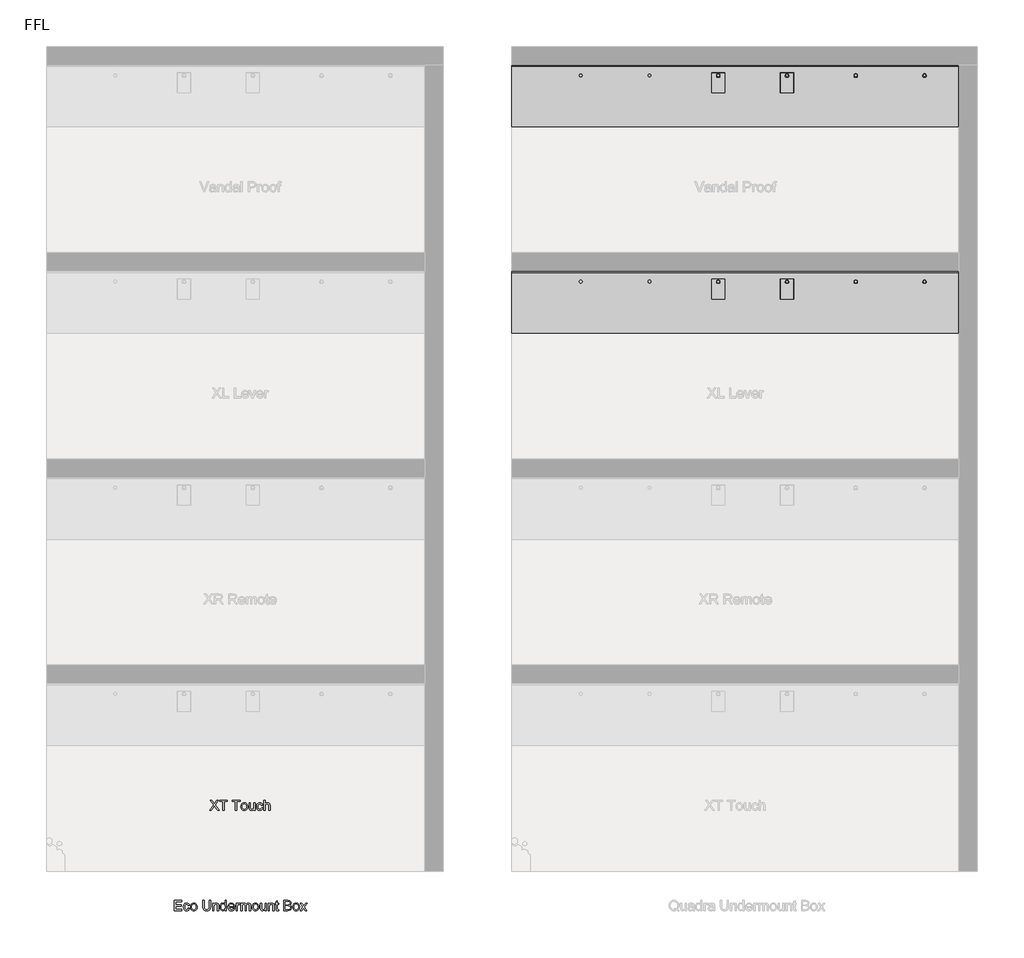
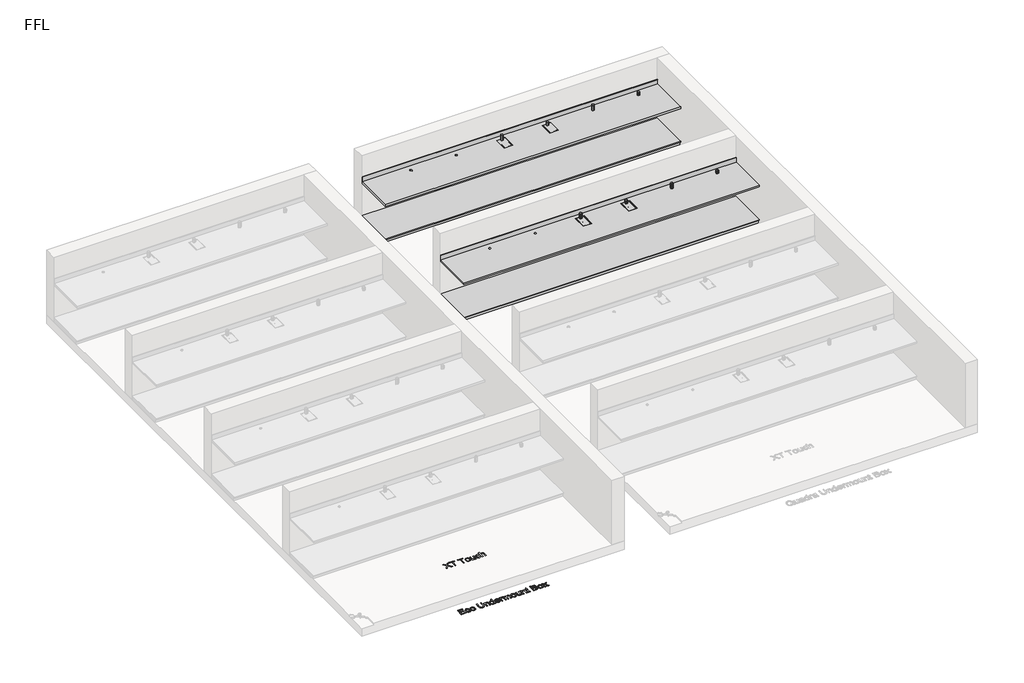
# One storey, part 3 of 5: 8 flow terminals, 4 furniture elements, 2 proxies.
"""IFC4 building model written with IfcOpenShell, lengths in millimetres."""

from ifc_helpers import new_model, si_unit, frame, origin, origin_with_axes, place, context, project, spatial, polyline, circle_curve, outline, extrude, transform, mapped, element, save
from ifc_brep_helpers import plane_surface, revolved_surface, advanced_brep
from components import brushed_582ad824, chrome_7b1b1f62, chrome_988dec97, chrome_73782d16, generic_plinth_900mm_e3c7578c

model = new_model("IFC4")

# Units and contexts
model_context = context("Model", 3, world=origin())
ifc_project = project(units=[si_unit("LENGTHUNIT", "METRE", prefix="MILLI")], contexts=[model_context])

# Site, building, storey
site = spatial("IfcSite", under=ifc_project)
building = spatial("IfcBuilding", under=site)
storey = spatial("IfcBuildingStorey", under=building, Name="FFL", Elevation=0.0)

# Proxies
placement = place(None, origin())
element("IfcBuildingElementProxy", 1, Name="150mm Arial", ObjectType="150mm Arial", at=placement, inside=storey, context=model_context, shape_type="SweptSolid", body=[
    extrude(outline(polyline([(9391.2262456, 1543.2393304), (9391.2262456, 1690.9316381), (9497.3800917, 1690.9316381), (9497.3800917, 1672.4700996), (9409.6877841, 1672.4700996), (9409.6877841, 1628.6239458), (9492.7647071, 1628.6239458), (9492.7647071, 1610.1624073), (9409.6877841, 1610.1624073), (9409.6877841, 1561.7008688), (9499.6877841, 1561.7008688), (9499.6877841, 1543.2393304), (9391.2262456, 1543.2393304)])), origin_with_axes(), (0.0, 0.0, 1.0), 5.0),
    extrude(outline(polyline([(9594.3031687, 1582.4700996), (9612.7647071, 1580.1624073), (9607.6174716, 1563.7426357), (9597.9449956, 1551.3342823), (9584.657736, 1543.5322991), (9568.6661494, 1540.9316381), (9549.0282288, 1544.5599433), (9533.6721591, 1555.4448592), (9523.7608009, 1573.1086212), (9520.4570148, 1597.073465), (9526.1000437, 1627.7405323), (9533.2214379, 1639.2384289), (9543.2995629, 1647.4460611), (9555.3563538, 1652.3679361), (9568.4137456, 1654.0085611), (9584.0132047, 1651.7549554), (9596.4846591, 1644.9941381), (9605.431474, 1634.0866861), (9610.4570148, 1619.3931765), (9591.9954764, 1617.0854842), (9583.4317744, 1630.9136092), (9568.5579764, 1635.5470227), (9556.6273874, 1633.2663736), (9547.157736, 1626.4244265), (9540.978349, 1614.65159), (9538.9185533, 1597.5782727), (9540.9332768, 1580.2750876), (9546.9774475, 1568.4616861), (9556.2758249, 1561.6603039), (9568.0531687, 1559.3931765), (9577.6129643, 1560.8084409), (9585.4510052, 1565.0542342), (9591.1526278, 1572.2387294), (9594.3031687, 1582.4700996)])), origin_with_axes(), (0.0, 0.0, 1.0), 5.0),
    extrude(outline(polyline([(9624.3031687, 1597.4700996), (9628.2965581, 1623.6209409), (9640.2767264, 1642.0013496), (9655.0784091, 1651.0067583), (9672.8007648, 1654.0085611), (9692.1952961, 1650.3532126), (9707.6865821, 1639.3871669), (9717.8413297, 1621.9758087), (9721.2262456, 1598.9845227), (9719.7298514, 1580.3336813), (9715.2406687, 1566.135965), (9707.8894066, 1555.503453), (9697.8067744, 1547.5482246), (9685.8311134, 1542.5857847), (9672.8007648, 1540.9316381), (9653.1718586, 1544.573465), (9637.6986014, 1555.4989458), (9627.6520268, 1573.2753881), (9624.3031687, 1597.4700996)]), holes=[polyline([(9642.7647071, 1597.5061573), (9644.9011254, 1580.7979241), (9651.3103802, 1568.8943784), (9660.9558129, 1561.768477), (9672.8007648, 1559.3931765), (9684.5916302, 1561.7819986), (9694.2190341, 1568.948465), (9700.6282889, 1581.0097631), (9702.7647071, 1598.0830804), (9700.6147672, 1614.3045347), (9694.1649475, 1626.0458208), (9684.524022, 1633.1717222), (9672.8007648, 1635.5470227), (9660.9558129, 1633.1807366), (9651.3103802, 1626.0818784), (9644.9011254, 1614.205376), (9642.7647071, 1597.5061573)])]), origin_with_axes(), (0.0, 0.0, 1.0), 5.0),
    extrude(outline(polyline([(9898.9185533, 1690.9316381), (9917.3800917, 1690.9316381), (9917.3800917, 1605.7273111), (9912.3680725, 1570.4088015), (9905.3458369, 1558.5548352), (9894.3031687, 1549.1347631), (9879.2130244, 1542.9824193), (9860.048361, 1540.9316381), (9841.3028682, 1542.7164938), (9826.3163898, 1548.0710611), (9815.0844187, 1556.8105443), (9807.6024475, 1568.7501477), (9803.3972191, 1584.7642703), (9801.9954764, 1605.7273111), (9801.9954764, 1690.9316381), (9820.4570148, 1690.9316381), (9820.4570148, 1606.3763496), (9824.0988417, 1578.2333208), (9829.04776, 1570.2330203), (9836.610861, 1564.2970227), (9858.3175917, 1559.3931765), (9877.094635, 1561.8180563), (9889.579611, 1569.0926958), (9896.5838177, 1583.2633688), (9898.9185533, 1606.3763496), (9898.9185533, 1690.9316381)])), origin_with_axes(), (0.0, 0.0, 1.0), 5.0),
    extrude(outline(polyline([(9947.3800917, 1543.2393304), (9947.3800917, 1651.7008688), (9965.8416302, 1651.7008688), (9965.8416302, 1636.5566381), (9979.9582167, 1649.6455804), (9999.2310533, 1654.0085611), (10016.6649475, 1650.4929361), (10028.563986, 1641.2621669), (10034.0988417, 1627.6864458), (10035.0723994, 1609.8378881), (10035.0723994, 1543.2393304), (10016.610861, 1543.2393304), (10016.610861, 1607.3499073), (10014.4834571, 1623.6840419), (10006.9654283, 1632.3198592), (9994.2911494, 1635.5470227), (9983.478349, 1633.7351236), (9974.2611014, 1628.2994265), (9967.946498, 1617.7976236), (9965.8416302, 1600.7874073), (9965.8416302, 1543.2393304), (9947.3800917, 1543.2393304)])), origin_with_axes(), (0.0, 0.0, 1.0), 5.0),
    extrude(outline(polyline([(10127.3800917, 1543.2393304), (10127.3800917, 1560.6551958), (10115.1655485, 1545.8625275), (10098.2815341, 1540.9316381), (10086.3464379, 1542.7164938), (10075.4209571, 1548.0710611), (10066.1721591, 1556.6212414), (10059.267111, 1567.9929361), (10054.9672312, 1581.7264097), (10053.5339379, 1597.3619265), (10058.8163898, 1626.7489458), (10065.4149475, 1638.4045948), (10074.6457167, 1646.9773111), (10085.8100797, 1652.2507486), (10098.2094187, 1654.0085611), (10115.2286494, 1648.9785131), (10127.3800917, 1635.9075996), (10127.3800917, 1690.9316381), (10145.8416302, 1690.9316381), (10145.8416302, 1543.2393304), (10127.3800917, 1543.2393304)]), holes=[polyline([(10071.9954764, 1597.4340419), (10074.0778081, 1580.7348232), (10080.3248033, 1568.8583208), (10089.4023273, 1561.7594626), (10099.9762456, 1559.3931765), (10110.5456566, 1561.6512895), (10119.3933129, 1568.4256284), (10125.383397, 1579.8423953), (10127.3800917, 1596.0277919), (10125.3473393, 1613.7231044), (10119.2490821, 1625.9917342), (10110.1760653, 1633.1582006), (10099.2190341, 1635.5470227), (10088.5369427, 1633.252852), (10079.7839379, 1626.37034), (10073.9425917, 1614.5479241), (10071.9954764, 1597.4340419)])]), origin_with_axes(), (0.0, 0.0, 1.0), 5.0),
    extrude(outline(polyline([(10249.4714379, 1575.5470227), (10267.5723994, 1573.2393304), (10261.0504643, 1559.6005083), (10250.6433129, 1549.4051958), (10236.5853201, 1543.0500275), (10219.110861, 1540.9316381), (10197.4492023, 1544.5869866), (10180.7815341, 1555.5530323), (10170.1535292, 1573.1176357), (10166.610861, 1596.5686573), (10170.1895869, 1620.8084409), (10180.9257648, 1638.9364458), (10197.3680725, 1650.2405323), (10218.0651879, 1654.0085611), (10238.117772, 1650.2495467), (10254.1409091, 1638.9725034), (10264.6472191, 1620.8805563), (10268.1493225, 1596.6768304), (10268.0411494, 1591.7008688), (10185.0723994, 1591.7008688), (10188.2680124, 1577.8817583), (10195.6913898, 1567.7225034), (10206.4050316, 1561.4755083), (10219.4714379, 1559.3931765), (10237.5723994, 1563.2513496), (10249.4714379, 1575.5470227)]), holes=[polyline([(10185.0723994, 1610.1624073), (10249.6877841, 1610.1624073), (10247.1907889, 1619.9160131), (10242.2959571, 1626.8931765), (10231.532736, 1633.3835611), (10217.9930725, 1635.5470227), (10205.5486615, 1633.8207607), (10195.2586975, 1628.6419746), (10188.1057528, 1620.5695587), (10185.0723994, 1610.1624073)])]), origin_with_axes(), (0.0, 0.0, 1.0), 5.0),
    extrude(outline(polyline([(10286.610861, 1543.2393304), (10286.610861, 1651.7008688), (10302.7647071, 1651.7008688), (10302.7647071, 1635.6551958), (10314.2310533, 1650.4388496), (10325.7695148, 1654.0085611), (10344.3031687, 1648.3114458), (10338.1373033, 1631.760965), (10325.1565341, 1635.5470227), (10314.7178321, 1631.9051958), (10308.0651879, 1621.8090419), (10305.0723994, 1600.2465419), (10305.0723994, 1543.2393304), (10286.610861, 1543.2393304)])), origin_with_axes(), (0.0, 0.0, 1.0), 5.0),
    extrude(outline(polyline([(10355.8416302, 1543.2393304), (10355.8416302, 1651.7008688), (10374.3031687, 1651.7008688), (10374.3031687, 1633.8523111), (10386.9954764, 1648.4737054), (10405.0603802, 1654.0085611), (10415.3278081, 1652.5978039), (10423.5579764, 1648.3655323), (10433.7262456, 1632.5542342), (10448.1312937, 1648.6449794), (10466.3223994, 1654.0085611), (10480.2001038, 1651.7774914), (10490.4630244, 1645.0842823), (10496.8046711, 1633.7486453), (10498.9185533, 1617.5902919), (10498.9185533, 1543.2393304), (10480.4570148, 1543.2393304), (10480.4570148, 1609.6575996), (10478.7442744, 1625.0722631), (10472.5423514, 1632.6624073), (10461.9954764, 1635.5470227), (10451.993974, 1633.6990659), (10443.8404283, 1628.1551958), (10438.4182528, 1618.5368063), (10436.610861, 1604.4652919), (10436.610861, 1543.2393304), (10418.1493225, 1543.2393304), (10418.1493225, 1611.7128881), (10413.876486, 1629.5975034), (10408.2379643, 1634.0596429), (10399.8680725, 1635.5470227), (10386.2022071, 1631.5806765), (10377.1156687, 1619.9700996), (10374.3031687, 1597.9388496), (10374.3031687, 1543.2393304), (10355.8416302, 1543.2393304)])), origin_with_axes(), (0.0, 0.0, 1.0), 5.0),
    extrude(outline(polyline([(10521.9954764, 1597.4700996), (10525.9888658, 1623.6209409), (10537.9690341, 1642.0013496), (10552.7707167, 1651.0067583), (10570.4930725, 1654.0085611), (10589.8876038, 1650.3532126), (10605.3788898, 1639.3871669), (10615.5336374, 1621.9758087), (10618.9185533, 1598.9845227), (10617.4221591, 1580.3336813), (10612.9329764, 1566.135965), (10605.5817143, 1555.503453), (10595.4990821, 1547.5482246), (10583.5234211, 1542.5857847), (10570.4930725, 1540.9316381), (10550.8641663, 1544.573465), (10535.3909091, 1555.4989458), (10525.3443345, 1573.2753881), (10521.9954764, 1597.4700996)]), holes=[polyline([(10540.4570148, 1597.5061573), (10542.5934331, 1580.7979241), (10549.0026879, 1568.8943784), (10558.6481206, 1561.768477), (10570.4930725, 1559.3931765), (10582.2839379, 1561.7819986), (10591.9113417, 1568.948465), (10598.3205966, 1581.0097631), (10600.4570148, 1598.0830804), (10598.3070749, 1614.3045347), (10591.8572552, 1626.0458208), (10582.2163297, 1633.1717222), (10570.4930725, 1635.5470227), (10558.6481206, 1633.1807366), (10549.0026879, 1626.0818784), (10542.5934331, 1614.205376), (10540.4570148, 1597.5061573)])]), origin_with_axes(), (0.0, 0.0, 1.0), 5.0),
    extrude(outline(polyline([(10708.9185533, 1543.2393304), (10708.9185533, 1561.8811573), (10694.4594187, 1546.1690179), (10675.6012456, 1540.9316381), (10658.2394667, 1544.6095227), (10646.2683129, 1553.8402919), (10640.7695148, 1567.4340419), (10639.6877841, 1584.5975034), (10639.6877841, 1651.7008688), (10658.1493225, 1651.7008688), (10658.1493225, 1593.2874073), (10659.267111, 1574.4652919), (10666.5687937, 1563.4136092), (10680.3248033, 1559.3931765), (10695.7394667, 1563.5037534), (10705.9257648, 1574.6996669), (10708.9185533, 1595.2705804), (10708.9185533, 1651.7008688), (10727.3800917, 1651.7008688), (10727.3800917, 1543.2393304), (10708.9185533, 1543.2393304)])), origin_with_axes(), (0.0, 0.0, 1.0), 5.0),
    extrude(outline(polyline([(10752.7647071, 1543.2393304), (10752.7647071, 1651.7008688), (10771.2262456, 1651.7008688), (10771.2262456, 1636.5566381), (10785.3428321, 1649.6455804), (10804.6156687, 1654.0085611), (10822.0495629, 1650.4929361), (10833.9486014, 1641.2621669), (10839.4834571, 1627.6864458), (10840.4570148, 1609.8378881), (10840.4570148, 1543.2393304), (10821.9954764, 1543.2393304), (10821.9954764, 1607.3499073), (10819.8680725, 1623.6840419), (10812.3500437, 1632.3198592), (10799.6757648, 1635.5470227), (10788.8629643, 1633.7351236), (10779.6457167, 1628.2994265), (10773.3311134, 1617.7976236), (10771.2262456, 1600.7874073), (10771.2262456, 1543.2393304), (10752.7647071, 1543.2393304)])), origin_with_axes(), (0.0, 0.0, 1.0), 5.0),
    extrude(outline(polyline([(10905.0723994, 1558.635965), (10907.3800917, 1542.698465), (10893.5699956, 1540.9316381), (10878.1012456, 1543.9965419), (10870.3848994, 1552.0374073), (10868.1493225, 1572.9869265), (10868.1493225, 1633.2393304), (10854.3031687, 1633.2393304), (10854.3031687, 1651.7008688), (10868.1493225, 1651.7008688), (10868.1493225, 1678.0590419), (10886.610861, 1688.9124073), (10886.610861, 1651.7008688), (10905.0723994, 1651.7008688), (10905.0723994, 1633.2393304), (10886.610861, 1633.2393304), (10886.610861, 1573.5277919), (10887.5844187, 1564.0085611), (10890.7394667, 1560.6371669), (10897.0315341, 1559.3931765), (10905.0723994, 1558.635965)])), origin_with_axes(), (0.0, 0.0, 1.0), 5.0),
    extrude(outline(polyline([(10983.5339379, 1543.2393304), (10983.5339379, 1690.9316381), (11039.892111, 1690.9316381), (11067.4942744, 1686.5866861), (11076.7701158, 1681.0743664), (11083.7923514, 1673.2273111), (11089.6877841, 1654.3330804), (11084.7298514, 1637.0794746), (11069.7478802, 1624.0085611), (11080.2091182, 1618.5458208), (11087.938986, 1610.2345227), (11092.712123, 1599.6245467), (11094.3031687, 1587.2657727), (11089.9582167, 1567.4160131), (11079.1949956, 1553.2813977), (11063.1312937, 1545.7813977), (11039.4594187, 1543.2393304), (10983.5339379, 1543.2393304)]), holes=[polyline([(11001.9954764, 1630.9316381), (11035.7094187, 1630.9316381), (11055.3969187, 1632.5181765), (11067.2418706, 1639.3511092), (11071.2262456, 1651.3763496), (11067.5123033, 1663.4196188), (11056.8752841, 1670.5410131), (11033.1493225, 1672.4700996), (11001.9954764, 1672.4700996), (11001.9954764, 1630.9316381)]), polyline([(11001.9954764, 1561.7008688), (11039.8560533, 1561.7008688), (11053.5579764, 1562.4220227), (11065.1505244, 1566.4424554), (11072.8308129, 1574.6455804), (11075.8416302, 1587.0854842), (11072.3079764, 1601.4364458), (11060.8596591, 1610.0001477), (11038.0531687, 1612.4700996), (11001.9954764, 1612.4700996), (11001.9954764, 1561.7008688)])]), origin_with_axes(), (0.0, 0.0, 1.0), 5.0),
    extrude(outline(polyline([(11112.7647071, 1597.4700996), (11116.7580966, 1623.6209409), (11128.7382648, 1642.0013496), (11143.5399475, 1651.0067583), (11161.2623033, 1654.0085611), (11180.6568345, 1650.3532126), (11196.1481206, 1639.3871669), (11206.3028682, 1621.9758087), (11209.6877841, 1598.9845227), (11208.1913898, 1580.3336813), (11203.7022071, 1566.135965), (11196.3509451, 1555.503453), (11186.2683129, 1547.5482246), (11174.2926518, 1542.5857847), (11161.2623033, 1540.9316381), (11141.633397, 1544.573465), (11126.1601398, 1555.4989458), (11116.1135653, 1573.2753881), (11112.7647071, 1597.4700996)]), holes=[polyline([(11131.2262456, 1597.5061573), (11133.3626639, 1580.7979241), (11139.7719187, 1568.8943784), (11149.4173514, 1561.768477), (11161.2623033, 1559.3931765), (11173.0531687, 1561.7819986), (11182.6805725, 1568.948465), (11189.0898273, 1581.0097631), (11191.2262456, 1598.0830804), (11189.0763057, 1614.3045347), (11182.626486, 1626.0458208), (11172.9855605, 1633.1717222), (11161.2623033, 1635.5470227), (11149.4173514, 1633.1807366), (11139.7719187, 1626.0818784), (11133.3626639, 1614.205376), (11131.2262456, 1597.5061573)])]), origin_with_axes(), (0.0, 0.0, 1.0), 5.0),
    extrude(outline(polyline([(11218.9185533, 1543.2393304), (11258.3656687, 1597.7585611), (11221.2262456, 1651.7008688), (11243.4377841, 1651.7008688), (11261.3584571, 1625.7393304), (11269.7238417, 1613.479715), (11276.9714379, 1623.5037534), (11297.3800917, 1651.7008688), (11319.5916302, 1651.7008688), (11280.5772071, 1597.7585611), (11318.1493225, 1543.2393304), (11295.9377841, 1543.2393304), (11273.329611, 1576.0157727), (11269.1829764, 1582.0013496), (11241.1300917, 1543.2393304), (11218.9185533, 1543.2393304)])), origin_with_axes(), (0.0, 0.0, 1.0), 5.0),
])
element("IfcBuildingElementProxy", 2, Name="150mm Arial", ObjectType="150mm Arial", at=placement, inside=storey, context=model_context, shape_type="SweptSolid", body=[
    extrude(outline(polyline([(9903.5339379, 3003.2393304), (9960.4690341, 3083.7200996), (9912.7647071, 3150.9316381), (9934.9041302, 3150.9316381), (9961.767111, 3113.1071188), (9970.8175917, 3098.3595227), (9981.4185533, 3113.3595227), (10007.9930725, 3150.9316381), (10030.4570148, 3150.9316381), (9982.7526879, 3083.5037534), (10039.6877841, 3003.2393304), (10017.548361, 3003.2393304), (9979.6156687, 3056.7489458), (9971.7190341, 3067.854715), (9963.0291302, 3055.667215), (9925.9978802, 3003.2393304), (9903.5339379, 3003.2393304)])), origin_with_axes(), (0.0, 0.0, 1.0), 5.0),
    extrude(outline(polyline([(10095.0723994, 3003.2393304), (10095.0723994, 3132.4700996), (10046.610861, 3132.4700996), (10046.610861, 3150.9316381), (10161.9954764, 3150.9316381), (10161.9954764, 3132.4700996), (10113.5339379, 3132.4700996), (10113.5339379, 3003.2393304), (10095.0723994, 3003.2393304)])), origin_with_axes(), (0.0, 0.0, 1.0), 5.0),
    extrude(outline(polyline([(10277.3800917, 3003.2393304), (10277.3800917, 3132.4700996), (10228.9185533, 3132.4700996), (10228.9185533, 3150.9316381), (10344.3031687, 3150.9316381), (10344.3031687, 3132.4700996), (10295.8416302, 3132.4700996), (10295.8416302, 3003.2393304), (10277.3800917, 3003.2393304)])), origin_with_axes(), (0.0, 0.0, 1.0), 5.0),
    extrude(outline(polyline([(10358.1493225, 3057.4700996), (10362.1427119, 3083.6209409), (10374.1228802, 3102.0013496), (10388.9245629, 3111.0067583), (10406.6469187, 3114.0085611), (10426.0414499, 3110.3532126), (10441.532736, 3099.3871669), (10451.6874836, 3081.9758087), (10455.0723994, 3058.9845227), (10453.5760052, 3040.3336813), (10449.0868225, 3026.135965), (10441.7355605, 3015.503453), (10431.6529283, 3007.5482246), (10419.6772672, 3002.5857847), (10406.6469187, 3000.9316381), (10387.0180124, 3004.573465), (10371.5447552, 3015.4989458), (10361.4981807, 3033.2753881), (10358.1493225, 3057.4700996)]), holes=[polyline([(10376.610861, 3057.5061573), (10378.7472792, 3040.7979241), (10385.1565341, 3028.8943784), (10394.8019667, 3021.768477), (10406.6469187, 3019.3931765), (10418.4377841, 3021.7819986), (10428.0651879, 3028.948465), (10434.4744427, 3041.0097631), (10436.610861, 3058.0830804), (10434.4609211, 3074.3045347), (10428.0111014, 3086.0458208), (10418.3701759, 3093.1717222), (10406.6469187, 3095.5470227), (10394.8019667, 3093.1807366), (10385.1565341, 3086.0818784), (10378.7472792, 3074.205376), (10376.610861, 3057.5061573)])]), origin_with_axes(), (0.0, 0.0, 1.0), 5.0),
    extrude(outline(polyline([(10545.0723994, 3003.2393304), (10545.0723994, 3021.8811573), (10530.6132648, 3006.1690179), (10511.7550917, 3000.9316381), (10494.3933129, 3004.6095227), (10482.4221591, 3013.8402919), (10476.923361, 3027.4340419), (10475.8416302, 3044.5975034), (10475.8416302, 3111.7008688), (10494.3031687, 3111.7008688), (10494.3031687, 3053.2874073), (10495.4209571, 3034.4652919), (10502.7226398, 3023.4136092), (10516.4786494, 3019.3931765), (10531.8933129, 3023.5037534), (10542.079611, 3034.6996669), (10545.0723994, 3055.2705804), (10545.0723994, 3111.7008688), (10563.5339379, 3111.7008688), (10563.5339379, 3003.2393304), (10545.0723994, 3003.2393304)])), origin_with_axes(), (0.0, 0.0, 1.0), 5.0),
    extrude(outline(polyline([(10658.1493225, 3042.4700996), (10676.610861, 3040.1624073), (10671.4636254, 3023.7426357), (10661.7911494, 3011.3342823), (10648.5038898, 3003.5322991), (10632.5123033, 3000.9316381), (10612.8743826, 3004.5599433), (10597.5183129, 3015.4448592), (10587.6069547, 3033.1086212), (10584.3031687, 3057.073465), (10589.9461975, 3087.7405323), (10597.0675917, 3099.2384289), (10607.1457167, 3107.4460611), (10619.2025076, 3112.3679361), (10632.2598994, 3114.0085611), (10647.8593586, 3111.7549554), (10660.3308129, 3104.9941381), (10669.2776278, 3094.0866861), (10674.3031687, 3079.3931765), (10655.8416302, 3077.0854842), (10647.2779283, 3090.9136092), (10632.4041302, 3095.5470227), (10620.4735413, 3093.2663736), (10611.0038898, 3086.4244265), (10604.8245028, 3074.65159), (10602.7647071, 3057.5782727), (10604.7794307, 3040.2750876), (10610.8236014, 3028.4616861), (10620.1219788, 3021.6603039), (10631.8993225, 3019.3931765), (10641.4591182, 3020.8084409), (10649.2971591, 3025.0542342), (10654.9987816, 3032.2387294), (10658.1493225, 3042.4700996)])), origin_with_axes(), (0.0, 0.0, 1.0), 5.0),
    extrude(outline(polyline([(10692.7647071, 3003.2393304), (10692.7647071, 3150.9316381), (10711.2262456, 3150.9316381), (10711.2262456, 3096.6287534), (10725.6222792, 3109.6636092), (10743.3536494, 3114.0085611), (10764.0868225, 3109.2669746), (10776.6709571, 3096.1600034), (10780.4570148, 3071.8931765), (10780.4570148, 3003.2393304), (10761.9954764, 3003.2393304), (10761.9954764, 3069.9821188), (10760.5261254, 3081.5386092), (10756.1180725, 3089.4532727), (10749.0147071, 3094.0235852), (10739.4594187, 3095.5470227), (10724.3332167, 3091.4364458), (10714.2370629, 3080.2946188), (10711.2262456, 3060.8595227), (10711.2262456, 3003.2393304), (10692.7647071, 3003.2393304)])), origin_with_axes(), (0.0, 0.0, 1.0), 5.0),
])

# Flow terminals
brushed_shape = brushed_582ad824(model_context)
element("IfcFlowTerminal", 3, ObjectType="z_PlumFixt_Billi_70mm Riser  : Brushed", at=placement, inside=storey, context=model_context, shape_type="MappedRepresentation", body=[
    mapped(brushed_shape, transform((20299.2647071, 10711.9893304, 900.0), x_axis=(1.0, 0.0, 0.0), y_axis=(0.0, 1.0, 0.0), z_axis=(0.0, 0.0, 1.0))),
])
element("IfcFlowTerminal", 4, ObjectType="z_PlumFixt_Billi_70mm Riser  : Chrome", at=placement, inside=storey, context=model_context, shape_type="MappedRepresentation", body=[
    mapped(brushed_shape, transform((20299.2647071, 13711.9893304, 900.0), x_axis=(1.0, 0.0, 0.0), y_axis=(0.0, 1.0, 0.0), z_axis=(0.0, 0.0, 1.0))),
])
chrome_shape = chrome_7b1b1f62(model_context)
element("IfcFlowTerminal", 5, ObjectType="z_PlumFixt_Billi_120mm Riser : Chrome", at=placement, inside=storey, context=model_context, shape_type="MappedRepresentation", body=[
    mapped(chrome_shape, transform((19299.2647071, 13711.9893304, 900.0), x_axis=(1.0, 0.0, 0.0), y_axis=(0.0, 1.0, 0.0), z_axis=(0.0, 0.0, 1.0))),
])
element("IfcFlowTerminal", 6, ObjectType="z_PlumFixt_Billi_120mm Riser : Chrome", at=placement, inside=storey, context=model_context, shape_type="MappedRepresentation", body=[
    mapped(chrome_shape, transform((19299.2647071, 10711.9893304, 900.0), x_axis=(1.0, 0.0, 0.0), y_axis=(0.0, 1.0, 0.0), z_axis=(0.0, 0.0, 1.0))),
])
chrome_2_shape = chrome_988dec97(model_context)
element("IfcFlowTerminal", 7, ObjectType="z_PlumFixt_Billi_Font and 70mm Riser : Chrome", at=placement, inside=storey, context=model_context, shape_type="MappedRepresentation", body=[
    mapped(chrome_2_shape, transform((18299.2647071, 13603.3988696, 900.0), x_axis=(1.0, 0.0, 0.0), y_axis=(0.0, 1.0, 0.0), z_axis=(0.0, 0.0, 1.0))),
])
chrome_3_shape = chrome_73782d16(model_context)
element("IfcFlowTerminal", 8, ObjectType="z_PlumFixt_Billi_Font and 120mm Riser : Chrome", at=placement, inside=storey, context=model_context, shape_type="MappedRepresentation", body=[
    mapped(chrome_3_shape, transform((17299.2647071, 13603.3988696, 900.0), x_axis=(1.0, 0.0, 0.0), y_axis=(0.0, 1.0, 0.0), z_axis=(0.0, 0.0, 1.0))),
])
element("IfcFlowTerminal", 9, ObjectType="z_PlumFixt_Billi_Font and 70mm Riser : Matte Black", at=placement, inside=storey, context=model_context, shape_type="MappedRepresentation", body=[
    mapped(chrome_2_shape, transform((18299.2647071, 10603.3988696, 900.0), x_axis=(1.0, 0.0, 0.0), y_axis=(0.0, 1.0, 0.0), z_axis=(0.0, 0.0, 1.0))),
])
element("IfcFlowTerminal", 10, ObjectType="z_PlumFixt_Billi_Font and 120mm Riser : Matte White", at=placement, inside=storey, context=model_context, shape_type="MappedRepresentation", body=[
    mapped(chrome_3_shape, transform((17299.2647071, 10603.3988696, 900.0), x_axis=(1.0, 0.0, 0.0), y_axis=(0.0, 1.0, 0.0), z_axis=(0.0, 0.0, 1.0))),
])

# Furniture
element("IfcFurniture", 11, ObjectType="Counter Top : 900mm Depth", at=placement, inside=storey, context=model_context, shape_type="AdvancedBrep", body=[
    advanced_brep(
    [(14300.2647071, 9948.2393304, 900.0), (21030.2647071, 9948.2393304, 900.0), (21030.2647071, 10829.1893304, 900.0), (14300.2647071, 10829.1893304, 900.0), (20300.2647071, 10718.2393304, 900.0), (20300.2647071, 10678.2393304, 900.0), (19300.2647071, 10718.2393304, 900.0), (19300.2647071, 10678.2393304, 900.0), (18395.7647071, 10735.1488696, 900.0), (18395.7647071, 10444.1488696, 900.0), (18204.7647071, 10444.1488696, 900.0), (18204.7647071, 10735.1488696, 900.0), (17395.7647071, 10735.1488696, 900.0), (17395.7647071, 10444.1488696, 900.0), (17204.7647071, 10444.1488696, 900.0), (17204.7647071, 10735.1488696, 900.0), (16300.2647071, 10718.2393304, 900.0), (16300.2647071, 10678.2393304, 900.0), (15300.2647071, 10718.2393304, 900.0), (15300.2647071, 10678.2393304, 900.0), (21030.2647071, 10848.2393304, 860.0), (21030.2647071, 9948.2393304, 860.0), (14300.2647071, 9948.2393304, 860.0), (14300.2647071, 10848.2393304, 860.0), (20300.2647071, 10678.2393304, 860.0), (20300.2647071, 10718.2393304, 860.0), (19300.2647071, 10678.2393304, 860.0), (19300.2647071, 10718.2393304, 860.0), (18387.2647071, 10452.6488696, 860.0), (18387.2647071, 10726.6488696, 860.0), (18213.2647071, 10726.6488696, 860.0), (18213.2647071, 10452.6488696, 860.0), (17387.2647071, 10452.6488696, 860.0), (17387.2647071, 10726.6488696, 860.0), (17213.2647071, 10726.6488696, 860.0), (17213.2647071, 10452.6488696, 860.0), (16300.2647071, 10678.2393304, 860.0), (16300.2647071, 10718.2393304, 860.0), (15300.2647071, 10678.2393304, 860.0), (15300.2647071, 10718.2393304, 860.0), (14300.2647071, 10848.2393304, 1001.6), (21030.2647071, 10848.2393304, 1001.6), (14300.2647071, 10829.1893304, 1001.6), (21030.2647071, 10829.1893304, 1001.6), (18395.7647071, 10735.1488696, 894.5), (18395.7647071, 10444.1488696, 894.5), (18387.2647071, 10452.6488696, 894.5), (18387.2647071, 10726.6488696, 894.5), (18204.7647071, 10735.1488696, 894.5), (18213.2647071, 10726.6488696, 894.5), (18204.7647071, 10444.1488696, 894.5), (18213.2647071, 10452.6488696, 894.5), (17395.7647071, 10735.1488696, 894.5), (17395.7647071, 10444.1488696, 894.5), (17387.2647071, 10452.6488696, 894.5), (17387.2647071, 10726.6488696, 894.5), (17204.7647071, 10735.1488696, 894.5), (17213.2647071, 10726.6488696, 894.5), (17204.7647071, 10444.1488696, 894.5), (17213.2647071, 10452.6488696, 894.5)],
    [
        (0, 1),
        (1, 2),
        (2, 3),
        (3, 0),
        (4, 5, circle_curve(frame((20300.2647071, 10698.2393304, 900.0), z_axis=(0.0, 0.0, -1.0), x_axis=(0.0, 1.0, 0.0)), 20.0)),
        (5, 4, circle_curve(frame((20300.2647071, 10698.2393304, 900.0), z_axis=(0.0, 0.0, -1.0), x_axis=(0.0, 1.0, 0.0)), 20.0)),
        (6, 7, circle_curve(frame((19300.2647071, 10698.2393304, 900.0), z_axis=(0.0, 0.0, -1.0), x_axis=(0.0, 1.0, 0.0)), 20.0)),
        (7, 6, circle_curve(frame((19300.2647071, 10698.2393304, 900.0), z_axis=(0.0, 0.0, -1.0), x_axis=(0.0, 1.0, 0.0)), 20.0)),
        (8, 9),
        (9, 10),
        (10, 11),
        (11, 8),
        (12, 13),
        (13, 14),
        (14, 15),
        (15, 12),
        (16, 17, circle_curve(frame((16300.2647071, 10698.2393304, 900.0), z_axis=(0.0, 0.0, -1.0), x_axis=(0.0, 1.0, 0.0)), 20.0)),
        (17, 16, circle_curve(frame((16300.2647071, 10698.2393304, 900.0), z_axis=(0.0, 0.0, -1.0), x_axis=(0.0, 1.0, 0.0)), 20.0)),
        (18, 19, circle_curve(frame((15300.2647071, 10698.2393304, 900.0), z_axis=(0.0, 0.0, -1.0), x_axis=(0.0, 1.0, 0.0)), 20.0)),
        (19, 18, circle_curve(frame((15300.2647071, 10698.2393304, 900.0), z_axis=(0.0, 0.0, -1.0), x_axis=(0.0, 1.0, 0.0)), 20.0)),
        (20, 21),
        (21, 22),
        (22, 23),
        (23, 20),
        (24, 25, circle_curve(frame((20300.2647071, 10698.2393304, 860.0), z_axis=(0.0, 0.0, 1.0), x_axis=(0.0, 1.0, 0.0)), 20.0)),
        (25, 24, circle_curve(frame((20300.2647071, 10698.2393304, 860.0), z_axis=(0.0, 0.0, 1.0), x_axis=(0.0, 1.0, 0.0)), 20.0)),
        (26, 27, circle_curve(frame((19300.2647071, 10698.2393304, 860.0), z_axis=(0.0, 0.0, 1.0), x_axis=(0.0, 1.0, 0.0)), 20.0)),
        (27, 26, circle_curve(frame((19300.2647071, 10698.2393304, 860.0), z_axis=(0.0, 0.0, 1.0), x_axis=(0.0, 1.0, 0.0)), 20.0)),
        (28, 29),
        (29, 30),
        (30, 31),
        (31, 28),
        (32, 33),
        (33, 34),
        (34, 35),
        (35, 32),
        (36, 37, circle_curve(frame((16300.2647071, 10698.2393304, 860.0), z_axis=(0.0, 0.0, 1.0), x_axis=(0.0, 1.0, 0.0)), 20.0)),
        (37, 36, circle_curve(frame((16300.2647071, 10698.2393304, 860.0), z_axis=(0.0, 0.0, 1.0), x_axis=(0.0, 1.0, 0.0)), 20.0)),
        (38, 39, circle_curve(frame((15300.2647071, 10698.2393304, 860.0), z_axis=(0.0, 0.0, 1.0), x_axis=(0.0, 1.0, 0.0)), 20.0)),
        (39, 38, circle_curve(frame((15300.2647071, 10698.2393304, 860.0), z_axis=(0.0, 0.0, 1.0), x_axis=(0.0, 1.0, 0.0)), 20.0)),
        (23, 40),
        (40, 41),
        (41, 20),
        (3, 42),
        (42, 40),
        (22, 0),
        (21, 1),
        (41, 43),
        (43, 2),
        (42, 43),
        (24, 5),
        (4, 25),
        (26, 7),
        (6, 27),
        (8, 44),
        (44, 45),
        (45, 9),
        (46, 47),
        (47, 29),
        (28, 46),
        (11, 48),
        (48, 44),
        (47, 49),
        (49, 30),
        (10, 50),
        (50, 48),
        (49, 51),
        (51, 31),
        (45, 50),
        (51, 46),
        (12, 52),
        (52, 53),
        (53, 13),
        (54, 55),
        (55, 33),
        (32, 54),
        (15, 56),
        (56, 52),
        (55, 57),
        (57, 34),
        (14, 58),
        (58, 56),
        (57, 59),
        (59, 35),
        (53, 58),
        (59, 54),
        (36, 17),
        (16, 37),
        (38, 19),
        (18, 39),
    ],
    [
        plane_surface(frame((14300.2647071, 10848.2393304, 900.0), z_axis=(0.0, 0.0, 1.0), x_axis=(-1.0, 0.0, 0.0))),
        plane_surface(frame((14300.2647071, 10848.2393304, 860.0), z_axis=(0.0, 0.0, -1.0), x_axis=(1.0, 0.0, 0.0))),
        plane_surface(frame((21030.2647071, 10848.2393304, 900.0), z_axis=(0.0, 1.0, 0.0), x_axis=(0.0, 0.0, -1.0))),
        plane_surface(frame((14300.2647071, 10848.2393304, 900.0), z_axis=(-1.0, 0.0, 0.0), x_axis=(0.0, 0.0, -1.0))),
        plane_surface(frame((14300.2647071, 9948.2393304, 900.0), z_axis=(0.0, -1.0, 0.0), x_axis=(0.0, 0.0, -1.0))),
        plane_surface(frame((21030.2647071, 9948.2393304, 900.0), z_axis=(1.0, 0.0, 0.0), x_axis=(0.0, 0.0, -1.0))),
        plane_surface(frame((14300.2647071, 10848.2393304, 1001.6), z_axis=(0.0, 0.0, 1.0), x_axis=(0.0, -1.0, 0.0))),
        plane_surface(frame((14300.2647071, 10829.1893304, 1001.6), z_axis=(0.0, -1.0, 0.0), x_axis=(0.0, 0.0, -1.0))),
        revolved_surface(polyline([(20300.2647071, 10718.2393304, 900.0), (20300.2647071, 10718.2393304, 860.0)]), (20300.2647071, 10698.2393304, 800.0), (0.0, 0.0, 1.0)),
        revolved_surface(polyline([(19300.2647071, 10718.2393304, 900.0), (19300.2647071, 10718.2393304, 860.0)]), (19300.2647071, 10698.2393304, 800.0), (0.0, 0.0, 1.0)),
        plane_surface(frame((18395.7647071, 10444.1488696, 894.5), z_axis=(-1.0, 0.0, 0.0), x_axis=(0.0, 1.0, 0.0))),
        plane_surface(frame((18387.2647071, 10452.6488696, 800.0), z_axis=(-1.0, 0.0, 0.0), x_axis=(0.0, 1.0, 0.0))),
        plane_surface(frame((18395.7647071, 10735.1488696, 894.5), z_axis=(0.0, -1.0, 0.0), x_axis=(-1.0, 0.0, 0.0))),
        plane_surface(frame((18387.2647071, 10726.6488696, 800.0), z_axis=(0.0, -1.0, 0.0), x_axis=(-1.0, 0.0, 0.0))),
        plane_surface(frame((18204.7647071, 10735.1488696, 894.5), z_axis=(1.0, 0.0, 0.0), x_axis=(0.0, -1.0, 0.0))),
        plane_surface(frame((18213.2647071, 10726.6488696, 800.0), z_axis=(1.0, 0.0, 0.0), x_axis=(0.0, -1.0, 0.0))),
        plane_surface(frame((18204.7647071, 10444.1488696, 894.5), z_axis=(0.0, 1.0, 0.0), x_axis=(1.0, 0.0, 0.0))),
        plane_surface(frame((18213.2647071, 10452.6488696, 800.0), z_axis=(0.0, 1.0, 0.0), x_axis=(1.0, 0.0, 0.0))),
        plane_surface(frame((18213.2647071, 10452.6488696, 894.5), z_axis=(0.0, 0.0, 1.0), x_axis=(1.0, 0.0, 0.0))),
        plane_surface(frame((17395.7647071, 10444.1488696, 894.5), z_axis=(-1.0, 0.0, 0.0), x_axis=(0.0, 1.0, 0.0))),
        plane_surface(frame((17387.2647071, 10452.6488696, 800.0), z_axis=(-1.0, 0.0, 0.0), x_axis=(0.0, 1.0, 0.0))),
        plane_surface(frame((17395.7647071, 10735.1488696, 894.5), z_axis=(0.0, -1.0, 0.0), x_axis=(-1.0, 0.0, 0.0))),
        plane_surface(frame((17387.2647071, 10726.6488696, 800.0), z_axis=(0.0, -1.0, 0.0), x_axis=(-1.0, 0.0, 0.0))),
        plane_surface(frame((17204.7647071, 10735.1488696, 894.5), z_axis=(1.0, 0.0, 0.0), x_axis=(0.0, -1.0, 0.0))),
        plane_surface(frame((17213.2647071, 10726.6488696, 800.0), z_axis=(1.0, 0.0, 0.0), x_axis=(0.0, -1.0, 0.0))),
        plane_surface(frame((17204.7647071, 10444.1488696, 894.5), z_axis=(0.0, 1.0, 0.0), x_axis=(1.0, 0.0, 0.0))),
        plane_surface(frame((17213.2647071, 10452.6488696, 800.0), z_axis=(0.0, 1.0, 0.0), x_axis=(1.0, 0.0, 0.0))),
        plane_surface(frame((17213.2647071, 10452.6488696, 894.5), z_axis=(0.0, 0.0, 1.0), x_axis=(1.0, 0.0, 0.0))),
        revolved_surface(polyline([(16300.2647071, 10718.2393304, 900.0), (16300.2647071, 10718.2393304, 860.0)]), (16300.2647071, 10698.2393304, 800.0), (0.0, 0.0, 1.0)),
        revolved_surface(polyline([(15300.2647071, 10718.2393304, 900.0), (15300.2647071, 10718.2393304, 860.0)]), (15300.2647071, 10698.2393304, 800.0), (0.0, 0.0, 1.0)),
    ],
    [
        (0, [[1, 2, 3, 4], [5, 6], [7, 8], [9, 10, 11, 12], [13, 14, 15, 16], [17, 18], [19, 20]]),
        (1, [[21, 22, 23, 24], [25, 26], [27, 28], [29, 30, 31, 32], [33, 34, 35, 36], [37, 38], [39, 40]]),
        (2, [[-24, 41, 42, 43]]),
        (3, [[-4, 44, 45, -41, -23, 46]]),
        (4, [[-1, -46, -22, 47]]),
        (5, [[-2, -47, -21, -43, 48, 49]]),
        (6, [[-42, -45, 50, -48]]),
        (7, [[-3, -49, -50, -44]]),
        (8, [[51, -5, 52, -25]]),
        (8, [[-51, -26, -52, -6]]),
        (9, [[53, -7, 54, -27]]),
        (9, [[-53, -28, -54, -8]]),
        (10, [[55, 56, 57, -9]]),
        (11, [[58, 59, -29, 60]]),
        (12, [[-55, -12, 61, 62]]),
        (13, [[63, 64, -30, -59]]),
        (14, [[-61, -11, 65, 66]]),
        (15, [[67, 68, -31, -64]]),
        (16, [[-57, 69, -65, -10]]),
        (17, [[70, -60, -32, -68]]),
        (18, [[-56, -62, -66, -69], [-58, -70, -67, -63]]),
        (19, [[71, 72, 73, -13]]),
        (20, [[74, 75, -33, 76]]),
        (21, [[-71, -16, 77, 78]]),
        (22, [[79, 80, -34, -75]]),
        (23, [[-77, -15, 81, 82]]),
        (24, [[83, 84, -35, -80]]),
        (25, [[-73, 85, -81, -14]]),
        (26, [[86, -76, -36, -84]]),
        (27, [[-72, -78, -82, -85], [-74, -86, -83, -79]]),
        (28, [[87, -17, 88, -37]]),
        (28, [[-87, -38, -88, -18]]),
        (29, [[89, -19, 90, -39]]),
        (29, [[-89, -40, -90, -20]]),
    ],
),
])
element("IfcFurniture", 12, ObjectType="Counter Top : 900mm Depth", at=placement, inside=storey, context=model_context, shape_type="AdvancedBrep", body=[
    advanced_brep(
    [(14300.2647071, 12948.2393304, 900.0), (20800.2647071, 12948.2393304, 900.0), (20800.2647071, 13829.1893304, 900.0), (14300.2647071, 13829.1893304, 900.0), (20300.2647071, 13718.2393304, 900.0), (20300.2647071, 13678.2393304, 900.0), (15300.2647071, 13718.2393304, 900.0), (15300.2647071, 13678.2393304, 900.0), (16300.2647071, 13718.2393304, 900.0), (16300.2647071, 13678.2393304, 900.0), (17395.7647071, 13444.1488696, 900.0), (17204.7647071, 13444.1488696, 900.0), (17204.7647071, 13735.1488696, 900.0), (17395.7647071, 13735.1488696, 900.0), (18395.7647071, 13444.1488696, 900.0), (18204.7647071, 13444.1488696, 900.0), (18204.7647071, 13735.1488696, 900.0), (18395.7647071, 13735.1488696, 900.0), (19300.2647071, 13718.2393304, 900.0), (19300.2647071, 13678.2393304, 900.0), (20800.2647071, 13848.2393304, 860.0), (20800.2647071, 12948.2393304, 860.0), (14300.2647071, 12948.2393304, 860.0), (14300.2647071, 13848.2393304, 860.0), (20300.2647071, 13678.2393304, 860.0), (20300.2647071, 13718.2393304, 860.0), (15300.2647071, 13678.2393304, 860.0), (15300.2647071, 13718.2393304, 860.0), (16300.2647071, 13678.2393304, 860.0), (16300.2647071, 13718.2393304, 860.0), (17213.2647071, 13452.6488696, 860.0), (17387.2647071, 13452.6488696, 860.0), (17387.2647071, 13726.6488696, 860.0), (17213.2647071, 13726.6488696, 860.0), (18213.2647071, 13452.6488696, 860.0), (18387.2647071, 13452.6488696, 860.0), (18387.2647071, 13726.6488696, 860.0), (18213.2647071, 13726.6488696, 860.0), (19300.2647071, 13678.2393304, 860.0), (19300.2647071, 13718.2393304, 860.0), (14300.2647071, 13848.2393304, 1001.6), (20800.2647071, 13848.2393304, 1001.6), (14300.2647071, 13829.1893304, 1001.6), (20800.2647071, 13829.1893304, 1001.6), (17213.2647071, 13452.6488696, 894.5), (17387.2647071, 13452.6488696, 894.5), (17395.7647071, 13444.1488696, 894.5), (17204.7647071, 13444.1488696, 894.5), (17387.2647071, 13726.6488696, 894.5), (17395.7647071, 13735.1488696, 894.5), (17213.2647071, 13726.6488696, 894.5), (17204.7647071, 13735.1488696, 894.5), (18213.2647071, 13452.6488696, 894.5), (18387.2647071, 13452.6488696, 894.5), (18395.7647071, 13444.1488696, 894.5), (18204.7647071, 13444.1488696, 894.5), (18387.2647071, 13726.6488696, 894.5), (18395.7647071, 13735.1488696, 894.5), (18213.2647071, 13726.6488696, 894.5), (18204.7647071, 13735.1488696, 894.5)],
    [
        (0, 1),
        (1, 2),
        (2, 3),
        (3, 0),
        (4, 5, circle_curve(frame((20300.2647071, 13698.2393304, 900.0), z_axis=(0.0, 0.0, -1.0), x_axis=(0.0, 1.0, 0.0)), 20.0)),
        (5, 4, circle_curve(frame((20300.2647071, 13698.2393304, 900.0), z_axis=(0.0, 0.0, -1.0), x_axis=(0.0, 1.0, 0.0)), 20.0)),
        (6, 7, circle_curve(frame((15300.2647071, 13698.2393304, 900.0), z_axis=(0.0, 0.0, -1.0), x_axis=(0.0, 1.0, 0.0)), 20.0)),
        (7, 6, circle_curve(frame((15300.2647071, 13698.2393304, 900.0), z_axis=(0.0, 0.0, -1.0), x_axis=(0.0, 1.0, 0.0)), 20.0)),
        (8, 9, circle_curve(frame((16300.2647071, 13698.2393304, 900.0), z_axis=(0.0, 0.0, -1.0), x_axis=(0.0, 1.0, 0.0)), 20.0)),
        (9, 8, circle_curve(frame((16300.2647071, 13698.2393304, 900.0), z_axis=(0.0, 0.0, -1.0), x_axis=(0.0, 1.0, 0.0)), 20.0)),
        (10, 11),
        (11, 12),
        (12, 13),
        (13, 10),
        (14, 15),
        (15, 16),
        (16, 17),
        (17, 14),
        (18, 19, circle_curve(frame((19300.2647071, 13698.2393304, 900.0), z_axis=(0.0, 0.0, -1.0), x_axis=(0.0, 1.0, 0.0)), 20.0)),
        (19, 18, circle_curve(frame((19300.2647071, 13698.2393304, 900.0), z_axis=(0.0, 0.0, -1.0), x_axis=(0.0, 1.0, 0.0)), 20.0)),
        (20, 21),
        (21, 22),
        (22, 23),
        (23, 20),
        (24, 25, circle_curve(frame((20300.2647071, 13698.2393304, 860.0), z_axis=(0.0, 0.0, 1.0), x_axis=(0.0, 1.0, 0.0)), 20.0)),
        (25, 24, circle_curve(frame((20300.2647071, 13698.2393304, 860.0), z_axis=(0.0, 0.0, 1.0), x_axis=(0.0, 1.0, 0.0)), 20.0)),
        (26, 27, circle_curve(frame((15300.2647071, 13698.2393304, 860.0), z_axis=(0.0, 0.0, 1.0), x_axis=(0.0, 1.0, 0.0)), 20.0)),
        (27, 26, circle_curve(frame((15300.2647071, 13698.2393304, 860.0), z_axis=(0.0, 0.0, 1.0), x_axis=(0.0, 1.0, 0.0)), 20.0)),
        (28, 29, circle_curve(frame((16300.2647071, 13698.2393304, 860.0), z_axis=(0.0, 0.0, 1.0), x_axis=(0.0, 1.0, 0.0)), 20.0)),
        (29, 28, circle_curve(frame((16300.2647071, 13698.2393304, 860.0), z_axis=(0.0, 0.0, 1.0), x_axis=(0.0, 1.0, 0.0)), 20.0)),
        (30, 31),
        (31, 32),
        (32, 33),
        (33, 30),
        (34, 35),
        (35, 36),
        (36, 37),
        (37, 34),
        (38, 39, circle_curve(frame((19300.2647071, 13698.2393304, 860.0), z_axis=(0.0, 0.0, 1.0), x_axis=(0.0, 1.0, 0.0)), 20.0)),
        (39, 38, circle_curve(frame((19300.2647071, 13698.2393304, 860.0), z_axis=(0.0, 0.0, 1.0), x_axis=(0.0, 1.0, 0.0)), 20.0)),
        (23, 40),
        (40, 41),
        (41, 20),
        (3, 42),
        (42, 40),
        (22, 0),
        (21, 1),
        (41, 43),
        (43, 2),
        (42, 43),
        (24, 5),
        (4, 25),
        (26, 7),
        (6, 27),
        (28, 9),
        (8, 29),
        (44, 45),
        (45, 31),
        (30, 44),
        (10, 46),
        (46, 47),
        (47, 11),
        (45, 48),
        (48, 32),
        (13, 49),
        (49, 46),
        (48, 50),
        (50, 33),
        (12, 51),
        (51, 49),
        (50, 44),
        (51, 47),
        (52, 53),
        (53, 35),
        (34, 52),
        (14, 54),
        (54, 55),
        (55, 15),
        (53, 56),
        (56, 36),
        (17, 57),
        (57, 54),
        (56, 58),
        (58, 37),
        (16, 59),
        (59, 57),
        (58, 52),
        (59, 55),
        (38, 19),
        (18, 39),
    ],
    [
        plane_surface(frame((14300.2647071, 13848.2393304, 900.0), z_axis=(0.0, 0.0, 1.0), x_axis=(-1.0, 0.0, 0.0))),
        plane_surface(frame((14300.2647071, 13848.2393304, 860.0), z_axis=(0.0, 0.0, -1.0), x_axis=(1.0, 0.0, 0.0))),
        plane_surface(frame((20800.2647071, 13848.2393304, 900.0), z_axis=(0.0, 1.0, 0.0), x_axis=(0.0, 0.0, -1.0))),
        plane_surface(frame((14300.2647071, 13848.2393304, 900.0), z_axis=(-1.0, 0.0, 0.0), x_axis=(0.0, 0.0, -1.0))),
        plane_surface(frame((14300.2647071, 12948.2393304, 900.0), z_axis=(0.0, -1.0, 0.0), x_axis=(0.0, 0.0, -1.0))),
        plane_surface(frame((20800.2647071, 12948.2393304, 900.0), z_axis=(1.0, 0.0, 0.0), x_axis=(0.0, 0.0, -1.0))),
        plane_surface(frame((14300.2647071, 13848.2393304, 1001.6), z_axis=(0.0, 0.0, 1.0), x_axis=(0.0, -1.0, 0.0))),
        plane_surface(frame((14300.2647071, 13829.1893304, 1001.6), z_axis=(0.0, -1.0, 0.0), x_axis=(0.0, 0.0, -1.0))),
        revolved_surface(polyline([(20300.2647071, 13718.2393304, 900.0), (20300.2647071, 13718.2393304, 860.0)]), (20300.2647071, 13698.2393304, 800.0), (0.0, 0.0, 1.0)),
        revolved_surface(polyline([(15300.2647071, 13718.2393304, 900.0), (15300.2647071, 13718.2393304, 860.0)]), (15300.2647071, 13698.2393304, 800.0), (0.0, 0.0, 1.0)),
        revolved_surface(polyline([(16300.2647071, 13718.2393304, 900.0), (16300.2647071, 13718.2393304, 860.0)]), (16300.2647071, 13698.2393304, 800.0), (0.0, 0.0, 1.0)),
        plane_surface(frame((17213.2647071, 13452.6488696, 800.0), z_axis=(0.0, 1.0, 0.0), x_axis=(1.0, 0.0, 0.0))),
        plane_surface(frame((17204.7647071, 13444.1488696, 894.5), z_axis=(0.0, 1.0, 0.0), x_axis=(1.0, 0.0, 0.0))),
        plane_surface(frame((17387.2647071, 13452.6488696, 800.0), z_axis=(-1.0, 0.0, 0.0), x_axis=(0.0, 1.0, 0.0))),
        plane_surface(frame((17395.7647071, 13444.1488696, 894.5), z_axis=(-1.0, 0.0, 0.0), x_axis=(0.0, 1.0, 0.0))),
        plane_surface(frame((17387.2647071, 13726.6488696, 800.0), z_axis=(0.0, -1.0, 0.0), x_axis=(-1.0, 0.0, 0.0))),
        plane_surface(frame((17395.7647071, 13735.1488696, 894.5), z_axis=(0.0, -1.0, 0.0), x_axis=(-1.0, 0.0, 0.0))),
        plane_surface(frame((17213.2647071, 13726.6488696, 800.0), z_axis=(1.0, 0.0, 0.0), x_axis=(0.0, -1.0, 0.0))),
        plane_surface(frame((17213.2647071, 13726.6488696, 894.5), z_axis=(0.0, 0.0, 1.0), x_axis=(0.0, -1.0, 0.0))),
        plane_surface(frame((17204.7647071, 13735.1488696, 894.5), z_axis=(1.0, 0.0, 0.0), x_axis=(0.0, -1.0, 0.0))),
        plane_surface(frame((18213.2647071, 13452.6488696, 800.0), z_axis=(0.0, 1.0, 0.0), x_axis=(1.0, 0.0, 0.0))),
        plane_surface(frame((18204.7647071, 13444.1488696, 894.5), z_axis=(0.0, 1.0, 0.0), x_axis=(1.0, 0.0, 0.0))),
        plane_surface(frame((18387.2647071, 13452.6488696, 800.0), z_axis=(-1.0, 0.0, 0.0), x_axis=(0.0, 1.0, 0.0))),
        plane_surface(frame((18395.7647071, 13444.1488696, 894.5), z_axis=(-1.0, 0.0, 0.0), x_axis=(0.0, 1.0, 0.0))),
        plane_surface(frame((18387.2647071, 13726.6488696, 800.0), z_axis=(0.0, -1.0, 0.0), x_axis=(-1.0, 0.0, 0.0))),
        plane_surface(frame((18395.7647071, 13735.1488696, 894.5), z_axis=(0.0, -1.0, 0.0), x_axis=(-1.0, 0.0, 0.0))),
        plane_surface(frame((18213.2647071, 13726.6488696, 800.0), z_axis=(1.0, 0.0, 0.0), x_axis=(0.0, -1.0, 0.0))),
        plane_surface(frame((18213.2647071, 13726.6488696, 894.5), z_axis=(0.0, 0.0, 1.0), x_axis=(0.0, -1.0, 0.0))),
        plane_surface(frame((18204.7647071, 13735.1488696, 894.5), z_axis=(1.0, 0.0, 0.0), x_axis=(0.0, -1.0, 0.0))),
        revolved_surface(polyline([(19300.2647071, 13718.2393304, 900.0), (19300.2647071, 13718.2393304, 860.0)]), (19300.2647071, 13698.2393304, 800.0), (0.0, 0.0, 1.0)),
    ],
    [
        (0, [[1, 2, 3, 4], [5, 6], [7, 8], [9, 10], [11, 12, 13, 14], [15, 16, 17, 18], [19, 20]]),
        (1, [[21, 22, 23, 24], [25, 26], [27, 28], [29, 30], [31, 32, 33, 34], [35, 36, 37, 38], [39, 40]]),
        (2, [[-24, 41, 42, 43]]),
        (3, [[-4, 44, 45, -41, -23, 46]]),
        (4, [[-1, -46, -22, 47]]),
        (5, [[-2, -47, -21, -43, 48, 49]]),
        (6, [[-42, -45, 50, -48]]),
        (7, [[-3, -49, -50, -44]]),
        (8, [[51, -5, 52, -25]]),
        (8, [[-51, -26, -52, -6]]),
        (9, [[53, -7, 54, -27]]),
        (9, [[-53, -28, -54, -8]]),
        (10, [[55, -9, 56, -29]]),
        (10, [[-55, -30, -56, -10]]),
        (11, [[57, 58, -31, 59]]),
        (12, [[60, 61, 62, -11]]),
        (13, [[63, 64, -32, -58]]),
        (14, [[-60, -14, 65, 66]]),
        (15, [[67, 68, -33, -64]]),
        (16, [[-65, -13, 69, 70]]),
        (17, [[71, -59, -34, -68]]),
        (18, [[-61, -66, -70, 72], [-57, -71, -67, -63]]),
        (19, [[-62, -72, -69, -12]]),
        (20, [[73, 74, -35, 75]]),
        (21, [[76, 77, 78, -15]]),
        (22, [[79, 80, -36, -74]]),
        (23, [[-76, -18, 81, 82]]),
        (24, [[83, 84, -37, -80]]),
        (25, [[-81, -17, 85, 86]]),
        (26, [[87, -75, -38, -84]]),
        (27, [[-77, -82, -86, 88], [-73, -87, -83, -79]]),
        (28, [[-78, -88, -85, -16]]),
        (29, [[89, -19, 90, -39]]),
        (29, [[-89, -40, -90, -20]]),
    ],
),
])
generic_plinth_900mm_shape = generic_plinth_900mm_e3c7578c(model_context)
element("IfcFurniture", 13, ObjectType="Generic Plinth : 900mm", at=placement, inside=storey, context=model_context, shape_type="MappedRepresentation", body=[
    mapped(generic_plinth_900mm_shape, transform((17531.5270022, 10848.2393304, 0.0), x_axis=(1.0, 0.0, 0.0), y_axis=(0.0, 1.0, 0.0), z_axis=(0.0, 0.0, 1.0))),
])
element("IfcFurniture", 14, ObjectType="Generic Plinth : 900mm", at=placement, inside=storey, context=model_context, shape_type="MappedRepresentation", body=[
    mapped(generic_plinth_900mm_shape, transform((17531.5270022, 13848.2393304, 0.0), x_axis=(1.0, 0.0, 0.0), y_axis=(0.0, 1.0, 0.0), z_axis=(0.0, 0.0, 1.0))),
])

save(model, "model.ifc")
